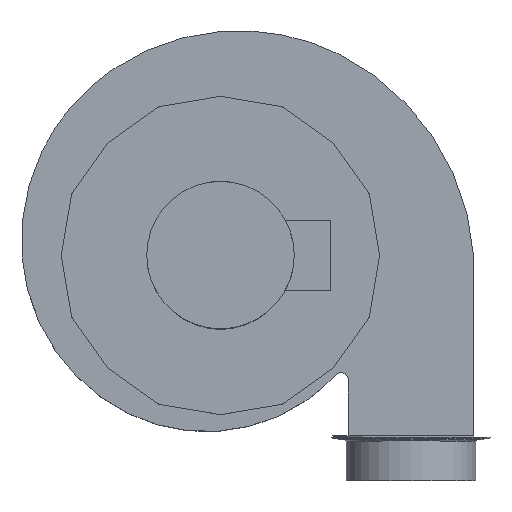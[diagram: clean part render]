
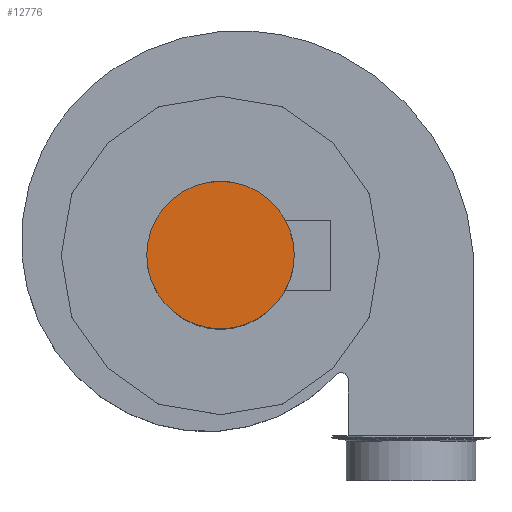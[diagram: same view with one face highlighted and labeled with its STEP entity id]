
A CAD part, top view. The second image highlights one B-rep face of the part: STEP entity #12776.
In plain terms, the highlighted planar face has unit normal (0, 0, 1).
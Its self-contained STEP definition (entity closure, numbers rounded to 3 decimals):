
#211=PLANE('',#13320);
#1291=FACE_OUTER_BOUND('',#2053,.T.);
#2053=EDGE_LOOP('',(#11447));
#3868=CIRCLE('',#12997,90.);
#5370=VERTEX_POINT('',#21831);
#6893=EDGE_CURVE('',#5370,#5370,#3868,.T.);
#11447=ORIENTED_EDGE('',*,*,#6893,.T.);
#12776=ADVANCED_FACE('',(#1291),#211,.F.);
#12997=AXIS2_PLACEMENT_3D('',#21832,#14095,#14096);
#13320=AXIS2_PLACEMENT_3D('',#29427,#15111,#15112);
#14095=DIRECTION('center_axis',(0.,0.,
1.));
#14096=DIRECTION('ref_axis',(-0.985,-0.173,0.));
#15111=DIRECTION('center_axis',(0.,0.,
-1.));
#15112=DIRECTION('ref_axis',(-1.,0.,0.));
#21831=CARTESIAN_POINT('',(1833.013,1378.497,304.));
#21832=CARTESIAN_POINT('Origin',(1744.371,1362.921,304.));
#29427=CARTESIAN_POINT('Origin',(1744.371,1362.921,304.));
